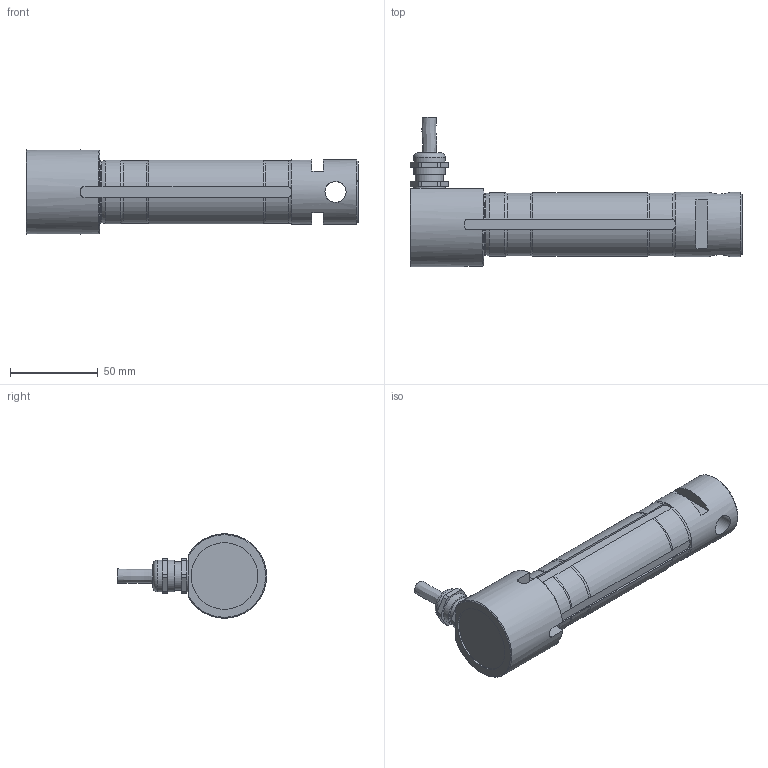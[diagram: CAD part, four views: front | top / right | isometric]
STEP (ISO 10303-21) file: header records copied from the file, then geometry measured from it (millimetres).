
FILE_DESCRIPTION(/* description */ ('Alibre Inc.'),/* implementation_level */ '2;1');
FILE_NAME(/* name */ 'export-7C1AAD30-421C-4EF8-9D11-F89461904E3C',/* time_stamp */ '2020-02-19T13:42:03+01:00',/* author */ (''),/* organization */ (''),/* preprocessor_version */ 'ST-DEVELOPER v17',/* originating_system */ 'Alibre',/* authorisation */ '');
FILE_SCHEMA (('CONFIG_CONTROL_DESIGN'));
Length unit declared in the file: centimetre
Bounding box: 189 x 84.95 x 48 mm (x, y, z)
Volume: 219535.2 mm3; surface area: 34077.9 mm2
Topology: 4 solids, 4 shells, 216 faces, 590 edges, 389 vertices
Faces by surface type: plane 101, cylinder 78, torus 26, cone 10, bspline 1
Full cylindrical faces by diameter (mm): 8 x1, 12 x1, 14.5 x1, 16 x2, 18 x2, 36.6 x1, 38 x1
Entity records: 7284 total; most frequent: CARTESIAN_POINT 1943, ORIENTED_EDGE 1138, DIRECTION 747, EDGE_CURVE 569, VERTEX_POINT 384, VECTOR 305, LINE 305, AXIS2_PLACEMENT_3D 271
